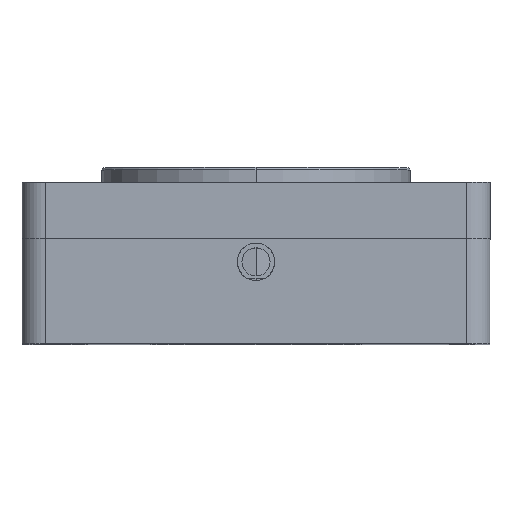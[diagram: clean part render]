
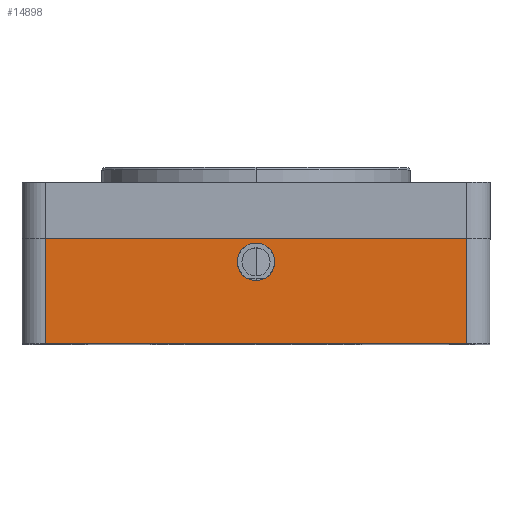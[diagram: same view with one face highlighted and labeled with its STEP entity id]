
A CAD part, top view. The second image highlights one B-rep face of the part: STEP entity #14898.
In plain terms, the highlighted planar face has unit normal (0, 0, 1).
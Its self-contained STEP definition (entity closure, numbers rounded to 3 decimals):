
#25 = VECTOR ( 'NONE', #2636, 1000. ) ;
#508 = CARTESIAN_POINT ( 'NONE',  ( 4., 17.5, 50. ) ) ;
#512 = DIRECTION ( 'NONE',  ( 0., -1., 0. ) ) ;
#985 = ORIENTED_EDGE ( 'NONE', *, *, #11736, .T. ) ;
#1150 = VERTEX_POINT ( 'NONE', #2411 ) ;
#1311 = CARTESIAN_POINT ( 'NONE',  ( 0., 17.5, 50. ) ) ;
#1361 = CARTESIAN_POINT ( 'NONE',  ( 45., 34.5, 50. ) ) ;
#2411 = CARTESIAN_POINT ( 'NONE',  ( -4., 17.5, 50. ) ) ;
#2507 = EDGE_LOOP ( 'NONE', ( #985, #17578, #8805, #5456 ) ) ;
#2636 = DIRECTION ( 'NONE',  ( 0., 1., 0. ) ) ;
#2713 = DIRECTION ( 'NONE',  ( 1., 0., 0. ) ) ;
#2955 = CARTESIAN_POINT ( 'NONE',  ( -45., 22.5, 50. ) ) ;
#3127 = FACE_OUTER_BOUND ( 'NONE', #2507, .T. ) ;
#3266 = CIRCLE ( 'NONE', #11343, 4. ) ;
#5358 = CARTESIAN_POINT ( 'NONE',  ( -50., 34.5, 50. ) ) ;
#5456 = ORIENTED_EDGE ( 'NONE', *, *, #10476, .T. ) ;
#6006 = CARTESIAN_POINT ( 'NONE',  ( 0., 17.5, 50. ) ) ;
#6417 = EDGE_CURVE ( 'NONE', #1150, #16629, #3266, .T. ) ;
#6488 = CARTESIAN_POINT ( 'NONE',  ( 45., 22.5, 50. ) ) ;
#6736 = DIRECTION ( 'NONE',  ( -1., 0., 0. ) ) ;
#7314 = LINE ( 'NONE', #1361, #25 ) ;
#7378 = DIRECTION ( 'NONE',  ( 1., 0., 0. ) ) ;
#7993 = AXIS2_PLACEMENT_3D ( 'NONE', #1311, #10894, #2713 ) ;
#8375 = VERTEX_POINT ( 'NONE', #6488 ) ;
#8698 = CARTESIAN_POINT ( 'NONE',  ( -45., 34.5, 50. ) ) ;
#8805 = ORIENTED_EDGE ( 'NONE', *, *, #17259, .F. ) ;
#9548 = CARTESIAN_POINT ( 'NONE',  ( 45., 0., 50. ) ) ;
#10080 = LINE ( 'NONE', #14582, #16952 ) ;
#10232 = LINE ( 'NONE', #8698, #13477 ) ;
#10247 = EDGE_CURVE ( 'NONE', #16629, #1150, #16279, .T. ) ;
#10345 = VERTEX_POINT ( 'NONE', #2955 ) ;
#10476 = EDGE_CURVE ( 'NONE', #10345, #12686, #10232, .T. ) ;
#10884 = VECTOR ( 'NONE', #15900, 1000. ) ;
#10894 = DIRECTION ( 'NONE',  ( 0., 0., 1. ) ) ;
#11343 = AXIS2_PLACEMENT_3D ( 'NONE', #6006, #15626, #7378 ) ;
#11736 = EDGE_CURVE ( 'NONE', #12686, #14957, #10080, .T. ) ;
#12686 = VERTEX_POINT ( 'NONE', #15971 ) ;
#13477 = VECTOR ( 'NONE', #512, 1000. ) ;
#13613 = ORIENTED_EDGE ( 'NONE', *, *, #6417, .F. ) ;
#14042 = ORIENTED_EDGE ( 'NONE', *, *, #10247, .F. ) ;
#14213 = EDGE_LOOP ( 'NONE', ( #14042, #13613 ) ) ;
#14537 = CARTESIAN_POINT ( 'NONE',  ( -50., 22.5, 50. ) ) ;
#14582 = CARTESIAN_POINT ( 'NONE',  ( -50., 0., 50. ) ) ;
#14588 = LINE ( 'NONE', #14537, #10884 ) ;
#14898 = ADVANCED_FACE ( 'NONE', ( #17683, #3127 ), #16252, .F. ) ;
#14957 = VERTEX_POINT ( 'NONE', #9548 ) ;
#15000 = DIRECTION ( 'NONE',  ( 0., 0., -1. ) ) ;
#15626 = DIRECTION ( 'NONE',  ( 0., 0., 1. ) ) ;
#15900 = DIRECTION ( 'NONE',  ( 1., 0., 0. ) ) ;
#15933 = EDGE_CURVE ( 'NONE', #14957, #8375, #7314, .T. ) ;
#15971 = CARTESIAN_POINT ( 'NONE',  ( -45., 0., 50. ) ) ;
#16252 = PLANE ( 'NONE',  #16647 ) ;
#16279 = CIRCLE ( 'NONE', #7993, 4. ) ;
#16629 = VERTEX_POINT ( 'NONE', #508 ) ;
#16647 = AXIS2_PLACEMENT_3D ( 'NONE', #5358, #15000, #6736 ) ;
#16952 = VECTOR ( 'NONE', #17297, 1000. ) ;
#17259 = EDGE_CURVE ( 'NONE', #10345, #8375, #14588, .T. ) ;
#17297 = DIRECTION ( 'NONE',  ( 1., 0., 0. ) ) ;
#17578 = ORIENTED_EDGE ( 'NONE', *, *, #15933, .T. ) ;
#17683 = FACE_BOUND ( 'NONE', #14213, .T. ) ;
